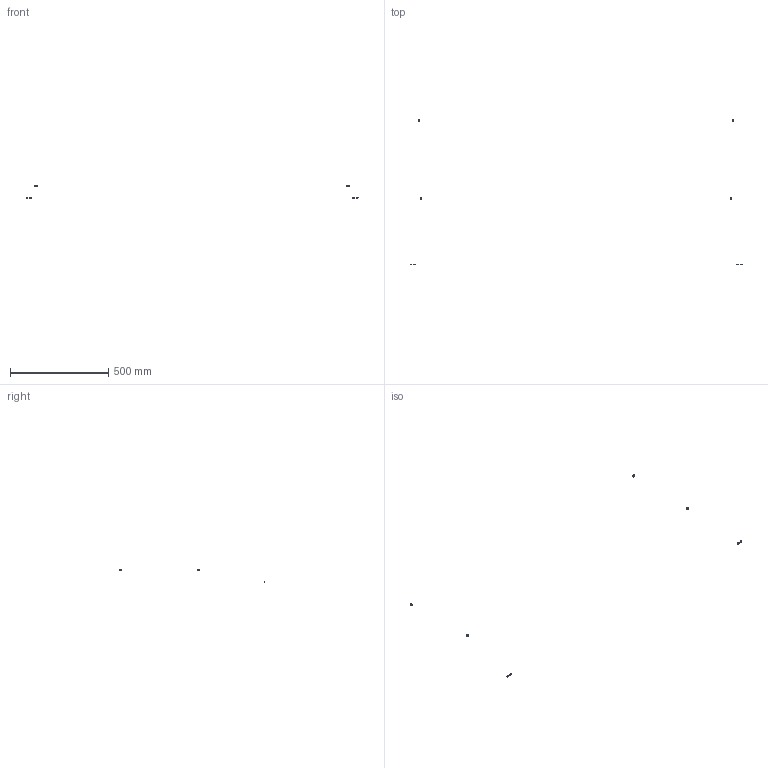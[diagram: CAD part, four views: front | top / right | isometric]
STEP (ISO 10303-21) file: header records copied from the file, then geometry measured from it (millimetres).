
FILE_DESCRIPTION(/* description */ (''),/* implementation_level */ '2;1');
FILE_NAME(/* name */ 'FR200A~1',/* time_stamp */ '2014-02-14T19:36:53+01:00',/* author */ (''),/* organization */ (''),/* preprocessor_version */ 'ST-DEVELOPER v14',/* originating_system */ '',/* authorisation */ '');
FILE_SCHEMA (('AUTOMOTIVE_DESIGN'));
Length unit declared in the file: millimetre
Products named in the file (2): Document; washer DIN125-like, form A, M5
Assembly tree (12 placements, depth 2):
  Document
    washer DIN125-like, form A, M5  x12
Bounding box: 1690 x 739 x 71 mm (x, y, z)
Surface area: 3869.6 mm2 (no closed solid volume)
Topology: 0 solids, 144 shells, 144 faces, 480 edges, 480 vertices
Faces by surface type: bspline 96, plane 48
Entity records: 6559 total; most frequent: CARTESIAN_POINT 3317, B_SPLINE_CURVE_WITH_KNOTS 312, ORIENTED_EDGE 260, PCURVE 260, DEFINITIONAL_REPRESENTATION 260, SURFACE_CURVE 260, EDGE_CURVE 260, VERTEX_POINT 260
